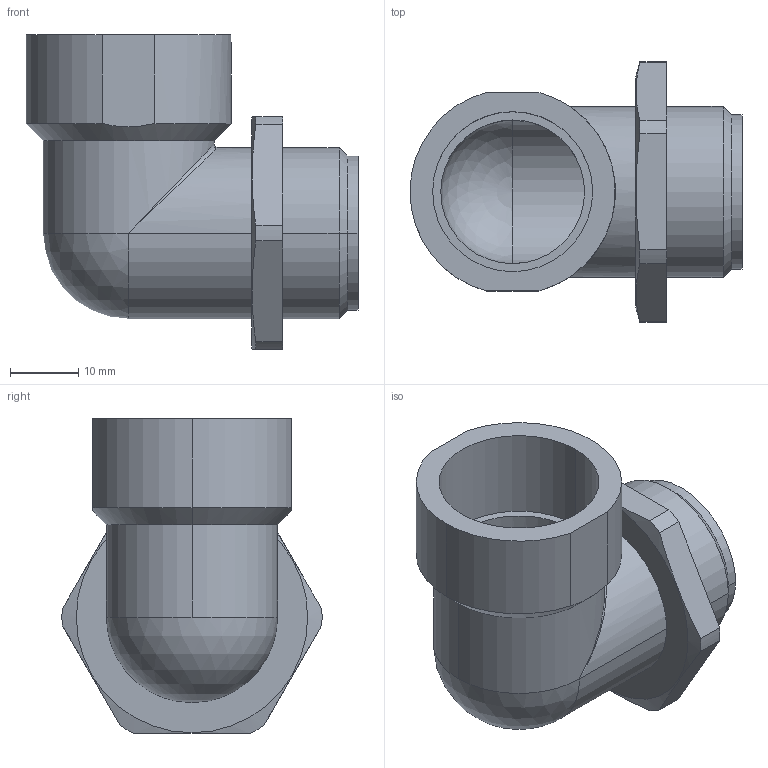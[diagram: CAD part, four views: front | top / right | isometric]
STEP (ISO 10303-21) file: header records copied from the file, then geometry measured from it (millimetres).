
FILE_DESCRIPTION (( 'STEP AP203' ), '1' );
FILE_NAME ('21.625M.STEP', '2006-01-13T13:03:38', ( ' ' ), ( '' ), 'SwSTEP 2.0', 'SolidWorks 2005278', '' );
FILE_SCHEMA (( 'CONFIG_CONTROL_DESIGN' ));
Length unit declared in the file: millimetre
Products named in the file (1): 21.625M
Bounding box: 48.5 x 37.99 x 46 mm (x, y, z)
Volume: 12636.1 mm3; surface area: 10888.2 mm2
Topology: 1 solids, 1 shells, 86 faces, 224 edges, 141 vertices
Faces by surface type: plane 51, cylinder 23, cone 8, bspline 2, sphere 2
Entity records: 3536 total; most frequent: CARTESIAN_POINT 1387, ORIENTED_EDGE 432, DIRECTION 421, EDGE_CURVE 216, VECTOR 149, LINE 149, VERTEX_POINT 139, AXIS2_PLACEMENT_3D 136
